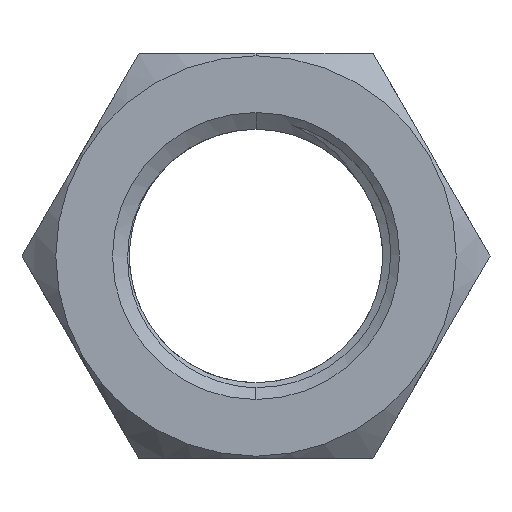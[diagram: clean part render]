
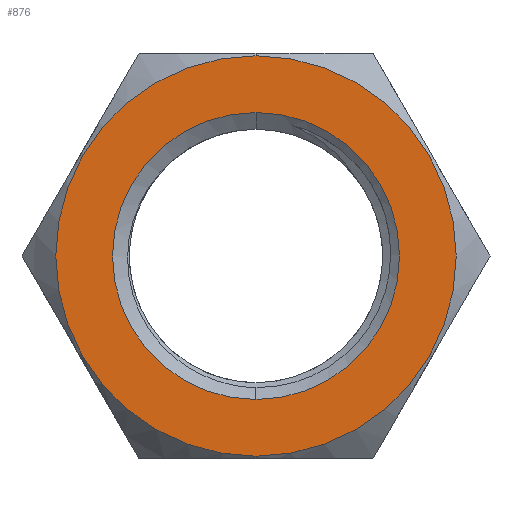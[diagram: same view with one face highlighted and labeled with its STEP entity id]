
A CAD part, front view. The second image highlights one B-rep face of the part: STEP entity #876.
In plain terms, the highlighted planar face has unit normal (0, -1, 0).
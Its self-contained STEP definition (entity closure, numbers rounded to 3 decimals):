
#529 = AXIS2_PLACEMENT_3D ( 'NONE', #1529, #2664, #3564 ) ;
#560 = EDGE_LOOP ( 'NONE', ( #2621, #1412 ) ) ;
#773 = EDGE_LOOP ( 'NONE', ( #1848, #1305 ) ) ;
#831 = EDGE_CURVE ( 'NONE', #1726, #2787, #3422, .T. ) ;
#840 = PLANE ( 'NONE',  #1953 ) ;
#876 = ADVANCED_FACE ( 'NONE', ( #3234, #2000 ), #840, .F. ) ;
#991 = EDGE_CURVE ( 'NONE', #3588, #1843, #2206, .T. ) ;
#1031 = AXIS2_PLACEMENT_3D ( 'NONE', #2450, #1861, #2786 ) ;
#1305 = ORIENTED_EDGE ( 'NONE', *, *, #2623, .F. ) ;
#1412 = ORIENTED_EDGE ( 'NONE', *, *, #831, .T. ) ;
#1425 = DIRECTION ( 'NONE',  ( 0., -1., 0. ) ) ;
#1489 = CARTESIAN_POINT ( 'NONE',  ( 0., -6.5, 0. ) ) ;
#1529 = CARTESIAN_POINT ( 'NONE',  ( 0., -6.5, 0. ) ) ;
#1637 = CIRCLE ( 'NONE', #1031, 11.856 ) ;
#1668 = EDGE_CURVE ( 'NONE', #2787, #1726, #1637, .T. ) ;
#1726 = VERTEX_POINT ( 'NONE', #2291 ) ;
#1801 = CARTESIAN_POINT ( 'NONE',  ( 0., -6.5, 11.856 ) ) ;
#1843 = VERTEX_POINT ( 'NONE', #3202 ) ;
#1848 = ORIENTED_EDGE ( 'NONE', *, *, #991, .F. ) ;
#1861 = DIRECTION ( 'NONE',  ( 0., -1., 0. ) ) ;
#1953 = AXIS2_PLACEMENT_3D ( 'NONE', #2021, #2910, #3504 ) ;
#2000 = FACE_OUTER_BOUND ( 'NONE', #560, .T. ) ;
#2021 = CARTESIAN_POINT ( 'NONE',  ( 0., -6.5, 0. ) ) ;
#2103 = DIRECTION ( 'NONE',  ( 0., -1., 0. ) ) ;
#2206 = CIRCLE ( 'NONE', #529, 8.5 ) ;
#2291 = CARTESIAN_POINT ( 'NONE',  ( 0., -6.5, -11.856 ) ) ;
#2396 = DIRECTION ( 'NONE',  ( 0., 0., -1. ) ) ;
#2450 = CARTESIAN_POINT ( 'NONE',  ( 0., -6.5, 0. ) ) ;
#2460 = AXIS2_PLACEMENT_3D ( 'NONE', #3824, #1425, #2638 ) ;
#2621 = ORIENTED_EDGE ( 'NONE', *, *, #1668, .T. ) ;
#2623 = EDGE_CURVE ( 'NONE', #1843, #3588, #2857, .T. ) ;
#2638 = DIRECTION ( 'NONE',  ( 0., 0., -1. ) ) ;
#2659 = AXIS2_PLACEMENT_3D ( 'NONE', #1489, #2103, #2396 ) ;
#2664 = DIRECTION ( 'NONE',  ( 0., -1., 0. ) ) ;
#2786 = DIRECTION ( 'NONE',  ( 0., 0., -1. ) ) ;
#2787 = VERTEX_POINT ( 'NONE', #1801 ) ;
#2857 = CIRCLE ( 'NONE', #2460, 8.5 ) ;
#2910 = DIRECTION ( 'NONE',  ( 0., 1., 0. ) ) ;
#3202 = CARTESIAN_POINT ( 'NONE',  ( 0., -6.5, -8.5 ) ) ;
#3234 = FACE_BOUND ( 'NONE', #773, .T. ) ;
#3346 = CARTESIAN_POINT ( 'NONE',  ( 0., -6.5, 8.5 ) ) ;
#3422 = CIRCLE ( 'NONE', #2659, 11.856 ) ;
#3504 = DIRECTION ( 'NONE',  ( 0., 0., 1. ) ) ;
#3564 = DIRECTION ( 'NONE',  ( 0., 0., -1. ) ) ;
#3588 = VERTEX_POINT ( 'NONE', #3346 ) ;
#3824 = CARTESIAN_POINT ( 'NONE',  ( 0., -6.5, 0. ) ) ;
